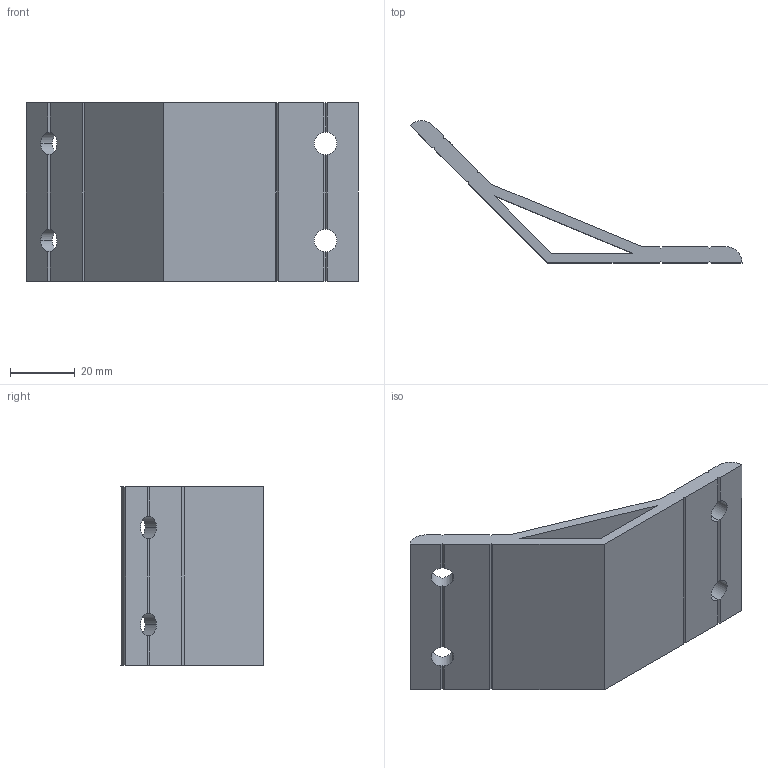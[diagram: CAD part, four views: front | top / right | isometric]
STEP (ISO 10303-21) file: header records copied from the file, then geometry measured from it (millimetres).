
FILE_DESCRIPTION (( 'STEP AP203' ), '1' );
FILE_NAME ('WA55135-6.STEP', '2024-02-17T07:47:58', ( '' ), ( '' ), 'SwSTEP 2.0', 'SolidWorks 2022', '' );
FILE_SCHEMA (( 'CONFIG_CONTROL_DESIGN' ));
Length unit declared in the file: millimetre
Products named in the file (1): WA55135-6
Bounding box: 102.43 x 43.87 x 55 mm (x, y, z)
Volume: 33189.2 mm3; surface area: 19870.6 mm2
Topology: 1 solids, 1 shells, 60 faces, 190 edges, 124 vertices
Faces by surface type: plane 50, cylinder 10
Entity records: 2175 total; most frequent: CARTESIAN_POINT 471, ORIENTED_EDGE 380, DIRECTION 308, EDGE_CURVE 190, VECTOR 130, LINE 130, VERTEX_POINT 124, AXIS2_PLACEMENT_3D 89
